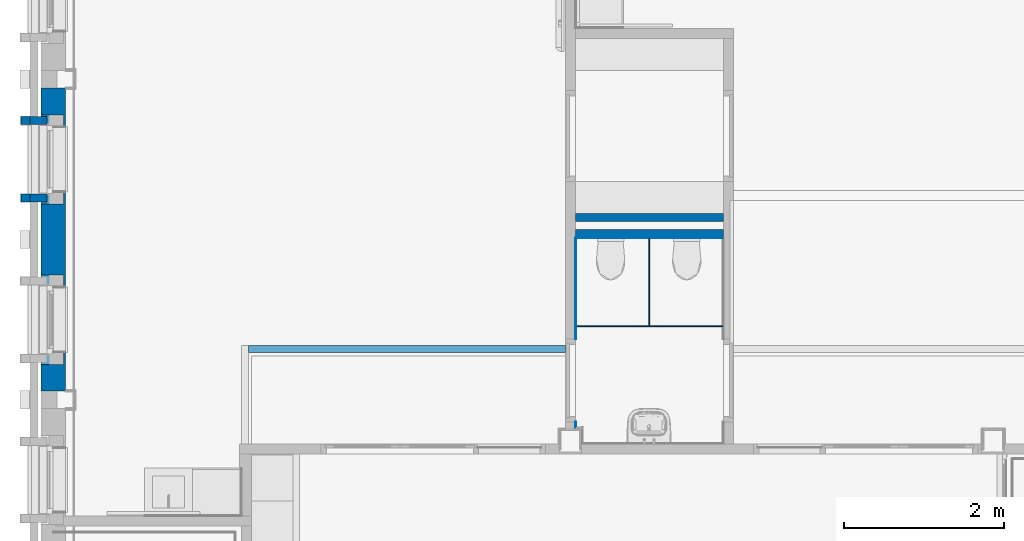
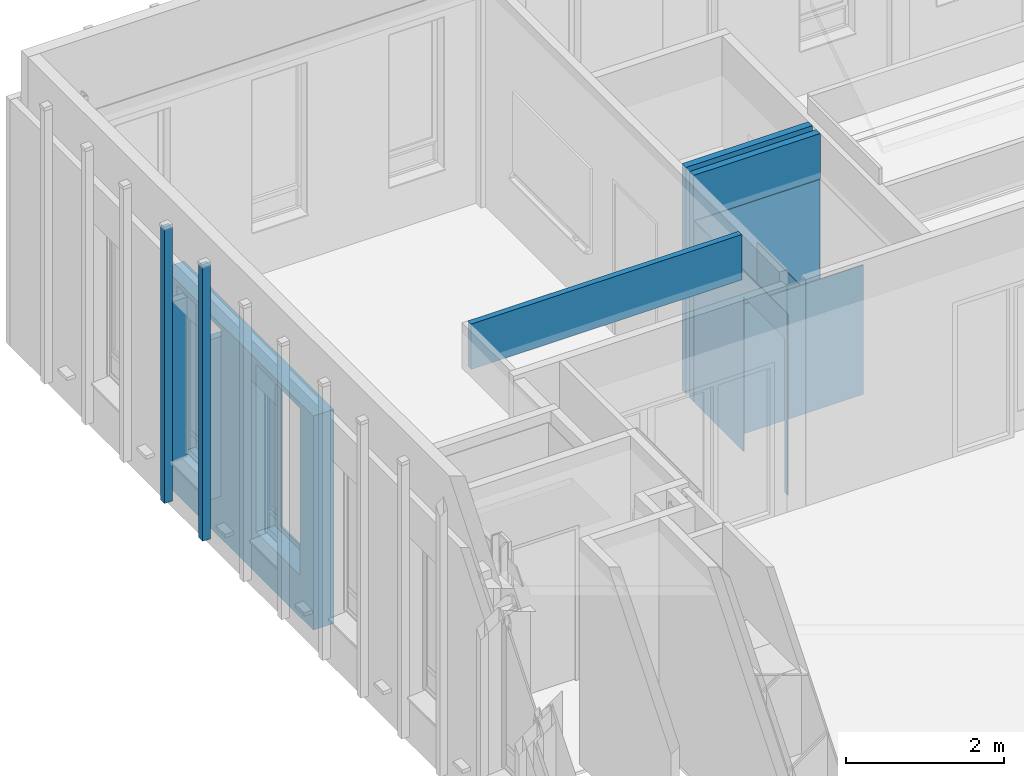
# One storey, part 52 of 118: 12 walls, 12 openings.
"""IFC2X3 building model written with IfcOpenShell, lengths in millimetres."""

from ifc_helpers import new_model, entity, si_unit, converted_unit, derived_unit, direction, frame, frame_2d, origin, place, context, subcontext, project, spatial, rectangle, extrude, faceted_brep, material, layer, layer_set, layer_usage, type_object, element, save


model = new_model("IFC2X3")

# Units and contexts
model_context = context("Model", 3, precision=0.01, world=origin(), true_north=direction((6.123031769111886e-17, 1.0)))
plan_context = context("Plan", 3, precision=0.01, world=origin(), true_north=direction((6.123031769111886e-17, 1.0)))
body_context = subcontext(model_context, "Body", "Model", "MODEL_VIEW")
ifc_project = project(units=[si_unit("LENGTHUNIT", "METRE", prefix="MILLI"), si_unit("AREAUNIT", "SQUARE_METRE"), si_unit("VOLUMEUNIT", "CUBIC_METRE"), converted_unit("PLANEANGLEUNIT", "DEGREE", entity("IfcRatioMeasure", 0.017453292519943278), si_unit("PLANEANGLEUNIT", "RADIAN"), dimensions=[0, 0, 0, 0, 0, 0, 0]), si_unit("MASSUNIT", "GRAM", prefix="KILO"), derived_unit("MASSDENSITYUNIT", [(si_unit("MASSUNIT", "GRAM", prefix="KILO"), 1), (si_unit("LENGTHUNIT", "METRE"), -3)]), derived_unit("IONCONCENTRATIONUNIT", [(si_unit("MASSUNIT", "GRAM", prefix="KILO"), 1), (si_unit("LENGTHUNIT", "METRE"), -3)]), derived_unit("MOMENTOFINERTIAUNIT", [(si_unit("LENGTHUNIT", "METRE"), 4)]), si_unit("TIMEUNIT", "SECOND"), si_unit("FREQUENCYUNIT", "HERTZ"), si_unit("THERMODYNAMICTEMPERATUREUNIT", "DEGREE_CELSIUS"), derived_unit("THERMALTRANSMITTANCEUNIT", [(si_unit("MASSUNIT", "GRAM", prefix="KILO"), 1), (si_unit("THERMODYNAMICTEMPERATUREUNIT", "KELVIN"), -1), (si_unit("TIMEUNIT", "SECOND"), -3)]), derived_unit("THERMALCONDUCTANCEUNIT", [(si_unit("MASSUNIT", "GRAM", prefix="KILO"), 1), (si_unit("THERMODYNAMICTEMPERATUREUNIT", "KELVIN"), -1), (si_unit("TIMEUNIT", "SECOND"), -3), (si_unit("LENGTHUNIT", "METRE"), 1)]), derived_unit("VOLUMETRICFLOWRATEUNIT", [(si_unit("LENGTHUNIT", "METRE"), 3), (si_unit("TIMEUNIT", "SECOND"), -1)]), derived_unit("MASSFLOWRATEUNIT", [(si_unit("MASSUNIT", "GRAM", prefix="KILO"), 1), (si_unit("TIMEUNIT", "SECOND"), -1)]), derived_unit("ROTATIONALFREQUENCYUNIT", [(si_unit("TIMEUNIT", "SECOND"), -1)]), si_unit("ELECTRICCURRENTUNIT", "AMPERE"), si_unit("ELECTRICVOLTAGEUNIT", "VOLT"), si_unit("POWERUNIT", "WATT"), si_unit("FORCEUNIT", "NEWTON", prefix="KILO"), si_unit("ILLUMINANCEUNIT", "LUX"), si_unit("LUMINOUSFLUXUNIT", "LUMEN"), si_unit("LUMINOUSINTENSITYUNIT", "CANDELA"), derived_unit("USERDEFINED", [(si_unit("MASSUNIT", "GRAM", prefix="KILO"), -1), (si_unit("LENGTHUNIT", "METRE"), -2), (si_unit("TIMEUNIT", "SECOND"), 3), (si_unit("LUMINOUSFLUXUNIT", "LUMEN"), 1)]), derived_unit("USERDEFINED", [(si_unit("MASSUNIT", "GRAM", prefix="KILO"), 1), (si_unit("TIMEUNIT", "SECOND"), -3), (si_unit("LENGTHUNIT", "METRE"), 3), (si_unit("ELECTRICCURRENTUNIT", "AMPERE"), -2)]), derived_unit("SOUNDPOWERUNIT", [(si_unit("MASSUNIT", "GRAM", prefix="KILO"), 1), (si_unit("TIMEUNIT", "SECOND"), -3), (si_unit("LENGTHUNIT", "METRE"), 2)]), derived_unit("SOUNDPRESSUREUNIT", [(si_unit("MASSUNIT", "GRAM", prefix="KILO"), 1), (si_unit("LENGTHUNIT", "METRE"), -1), (si_unit("TIMEUNIT", "SECOND"), -2)]), derived_unit("LINEARVELOCITYUNIT", [(si_unit("LENGTHUNIT", "METRE"), 1), (si_unit("TIMEUNIT", "SECOND"), -1)]), si_unit("PRESSUREUNIT", "PASCAL"), derived_unit("USERDEFINED", [(si_unit("MASSUNIT", "GRAM", prefix="KILO"), 1), (si_unit("LENGTHUNIT", "METRE"), -2), (si_unit("TIMEUNIT", "SECOND"), -2)]), derived_unit("LINEARFORCEUNIT", [(si_unit("MASSUNIT", "GRAM", prefix="KILO"), 1), (si_unit("TIMEUNIT", "SECOND"), -2)]), derived_unit("PLANARFORCEUNIT", [(si_unit("MASSUNIT", "GRAM", prefix="KILO"), 1), (si_unit("LENGTHUNIT", "METRE"), -1), (si_unit("TIMEUNIT", "SECOND"), -2)]), derived_unit("SPECIFICHEATCAPACITYUNIT", [(si_unit("THERMODYNAMICTEMPERATUREUNIT", "KELVIN"), -1), (si_unit("LENGTHUNIT", "METRE"), 2), (si_unit("TIMEUNIT", "SECOND"), -2)]), derived_unit("HEATINGVALUEUNIT", [(si_unit("LENGTHUNIT", "METRE"), 2), (si_unit("TIMEUNIT", "SECOND"), -2)]), derived_unit("VAPORPERMEABILITYUNIT", [(si_unit("LENGTHUNIT", "METRE"), -1), (si_unit("TIMEUNIT", "SECOND"), 1)]), derived_unit("DYNAMICVISCOSITYUNIT", [(si_unit("MASSUNIT", "GRAM", prefix="KILO"), 1), (si_unit("TIMEUNIT", "SECOND"), -1), (si_unit("LENGTHUNIT", "METRE"), -1)]), derived_unit("THERMALEXPANSIONCOEFFICIENTUNIT", [(si_unit("THERMODYNAMICTEMPERATUREUNIT", "KELVIN"), -1)]), derived_unit("MODULUSOFELASTICITYUNIT", [(si_unit("MASSUNIT", "GRAM", prefix="KILO"), 1), (si_unit("LENGTHUNIT", "METRE"), -1), (si_unit("TIMEUNIT", "SECOND"), -2)]), derived_unit("ISOTHERMALMOISTURECAPACITYUNIT", [(si_unit("LENGTHUNIT", "METRE"), 3), (si_unit("MASSUNIT", "GRAM", prefix="KILO"), -1)]), derived_unit("MOISTUREDIFFUSIVITYUNIT", [(si_unit("TIMEUNIT", "SECOND"), -1), (si_unit("LENGTHUNIT", "METRE"), 2)])], contexts=[model_context, plan_context])

# Site, building, storey
site_placement = place(None, origin())
site = spatial("IfcSite", under=ifc_project, at=site_placement, Name="Locatie", CompositionType="ELEMENT")
building_placement = place(site_placement, origin())
building = spatial("IfcBuilding", under=site, at=building_placement, Name="Bouwwerk", CompositionType="ELEMENT")
storey_placement = place(building_placement, frame((0.0, 0.0, 7800.0)))
storey = spatial("IfcBuildingStorey", under=building, at=storey_placement, Name="02 tweede verdieping", CompositionType="ELEMENT", Elevation=7800.000000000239)

# Wall, openings
ifc_material_1 = material(Name="n7_isolatie_glaswol")
ifc_layer_1 = layer(ifc_material_1, 30.0)
ifc_layer_2 = layer(ifc_material_1, 245.0)
ifc_material_2 = material(Name="i4_multiplex")
ifc_layer_3 = layer(ifc_material_2, 12.0)
ifc_material_3 = material(Name="f7_gipsvezel")
ifc_layer_4 = layer(ifc_material_3, 13.000000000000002)
ifc_layer_set_1 = layer_set([ifc_layer_1, ifc_layer_2, ifc_layer_3, ifc_layer_4], Name="Basic Wall:NLRS_22_WA_HSB bispouw 30-245-12-13 glaswol_gen_ISR")
ifc_layer_usage_1 = layer_usage(ifc_layer_set_1, "AXIS2", "NEGATIVE", 150.0)
wall_type_1 = type_object("IfcWallType", Name="Basic Wall:NLRS_22_WA_HSB bispouw 30-245-12-13 glaswol_gen_ISR", PredefinedType="STANDARD", material=ifc_layer_set_1)
wall_1_placement = place(storey_placement, frame((9850.0, 27310.0, -30.0), z_axis=(0.0, 0.0, 1.0), x_axis=(0.0, 1.0, 0.0)))
wall_1 = element("IfcWallStandardCase", 1, at=wall_1_placement, inside=storey, type_object=wall_type_1, material=ifc_layer_usage_1, Name="Basic Wall:NLRS_22_WA_HSB bispouw 30-245-12-13 glaswol_gen_ISR", ObjectType="Basic Wall:NLRS_22_WA_HSB bispouw 30-245-12-13 glaswol_gen_ISR", context=body_context, shape_type="SweptSolid", body=[
    extrude(rectangle(XDim=3779.9999999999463, YDim=300.0000000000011, at=frame_2d((1889.9999999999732, 0.0), x_axis=(-1.0, 0.0))), origin(), (0.0, 0.0, 1.0), 3305.0000000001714),
])
opening_1_placement = place(wall_1_placement, frame((-15666.0, 290.0, 633.0)))
element("IfcOpeningElement", 2, at=opening_1_placement, cuts=wall_1, Name="Basic Wall:NLRS_22_WA_HSB bispouw 30-245-12-13 glaswol_gen_ISR", ObjectType="Opening", context=body_context, shape_type="Brep", body=[
    faceted_brep([(1088.0, -100.0, 2472.0), (1009.0, -100.0, 2472.0), (1009.0, -100.0, 42.0), (103.0, -100.0, 42.0), (103.0, -100.0, 2472.0), (24.0, -100.0, 2472.0), (24.0, -100.0, 0.0), (1088.0, -100.0, 0.0), (24.0, 0.0, 2472.0), (1088.0, 0.0, 2472.0), (1088.0, 0.0, 0.0), (24.0, 0.0, 0.0), (0.0, -415.0, 2594.0), (0.0, -415.0, 11.0), (1112.0, -415.0, 11.0), (1112.0, -415.0, 2594.0), (148.0, -415.0, 2443.0), (964.0, -415.0, 2443.0), (964.0, -415.0, 87.0), (148.0, -415.0, 87.0), (0.0, -140.0, 2594.0), (1112.0, -140.0, 2594.0), (1112.0, -140.0, 11.0), (0.0, -140.0, 11.0), (103.0, -140.0, 42.0), (1009.0, -140.0, 42.0), (1009.0, -140.0, 2508.0), (103.0, -140.0, 2508.0), (1009.0, -100.0, 2508.0), (103.0, -100.0, 2508.0), (148.0, -615.0, 2443.0), (148.0, -615.0, 87.0), (964.0, -615.0, 87.0), (964.0, -615.0, 2443.0)], [[[0, 1, 2, 3, 4, 5, 6, 7]], [[8, 9, 10, 11]], [[5, 8, 11, 6]], [[6, 11, 10, 7]], [[7, 10, 9, 0]], [[8, 5, 4, 1, 0, 9]], [[12, 13, 14, 15], [16, 17, 18, 19]], [[20, 21, 22, 23], [24, 25, 26, 27]], [[12, 20, 23, 13]], [[13, 23, 22, 14]], [[14, 22, 21, 15]], [[15, 21, 20, 12]], [[28, 1, 4, 29]], [[24, 27, 29, 4, 3]], [[3, 2, 25, 24]], [[2, 1, 28, 26, 25]], [[29, 27, 26, 28]], [[30, 31, 32, 33]], [[30, 16, 19, 31]], [[31, 19, 18, 32]], [[32, 18, 17, 33]], [[33, 17, 16, 30]]]),
])
opening_2_placement = place(wall_1_placement, frame((-13666.0, 290.0, 633.0)))
element("IfcOpeningElement", 3, at=opening_2_placement, cuts=wall_1, Name="Basic Wall:NLRS_22_WA_HSB bispouw 30-245-12-13 glaswol_gen_ISR", ObjectType="Opening", context=body_context, shape_type="Brep", body=[
    faceted_brep([(1088.0, -100.0, 2472.0), (1009.0, -100.0, 2472.0), (1009.0, -100.0, 42.0), (103.0, -100.0, 42.0), (103.0, -100.0, 2472.0), (24.0, -100.0, 2472.0), (24.0, -100.0, 0.0), (1088.0, -100.0, 0.0), (24.0, 0.0, 2472.0), (1088.0, 0.0, 2472.0), (1088.0, 0.0, 0.0), (24.0, 0.0, 0.0), (0.0, -415.0, 2594.0), (0.0, -415.0, 11.0), (1112.0, -415.0, 11.0), (1112.0, -415.0, 2594.0), (148.0, -415.0, 2443.0), (964.0, -415.0, 2443.0), (964.0, -415.0, 87.0), (148.0, -415.0, 87.0), (0.0, -140.0, 2594.0), (1112.0, -140.0, 2594.0), (1112.0, -140.0, 11.0), (0.0, -140.0, 11.0), (103.0, -140.0, 42.0), (1009.0, -140.0, 42.0), (1009.0, -140.0, 2508.0), (103.0, -140.0, 2508.0), (1009.0, -100.0, 2508.0), (103.0, -100.0, 2508.0), (148.0, -615.0, 2443.0), (148.0, -615.0, 87.0), (964.0, -615.0, 87.0), (964.0, -615.0, 2443.0)], [[[0, 1, 2, 3, 4, 5, 6, 7]], [[8, 9, 10, 11]], [[5, 8, 11, 6]], [[6, 11, 10, 7]], [[7, 10, 9, 0]], [[8, 5, 4, 1, 0, 9]], [[12, 13, 14, 15], [16, 17, 18, 19]], [[20, 21, 22, 23], [24, 25, 26, 27]], [[12, 20, 23, 13]], [[13, 23, 22, 14]], [[14, 22, 21, 15]], [[15, 21, 20, 12]], [[28, 1, 4, 29]], [[24, 27, 29, 4, 3]], [[3, 2, 25, 24]], [[2, 1, 28, 26, 25]], [[29, 27, 26, 28]], [[30, 31, 32, 33]], [[30, 16, 19, 31]], [[31, 19, 18, 32]], [[32, 18, 17, 33]], [[33, 17, 16, 30]]]),
])
opening_3_placement = place(wall_1_placement, frame((-11666.0, 290.0, 633.0)))
element("IfcOpeningElement", 4, at=opening_3_placement, cuts=wall_1, Name="Basic Wall:NLRS_22_WA_HSB bispouw 30-245-12-13 glaswol_gen_ISR", ObjectType="Opening", context=body_context, shape_type="Brep", body=[
    faceted_brep([(1088.0, -100.0, 2472.0), (1009.0, -100.0, 2472.0), (1009.0, -100.0, 42.0), (103.0, -100.0, 42.0), (103.0, -100.0, 2472.0), (24.0, -100.0, 2472.0), (24.0, -100.0, 0.0), (1088.0, -100.0, 0.0), (24.0, 0.0, 2472.0), (1088.0, 0.0, 2472.0), (1088.0, 0.0, 0.0), (24.0, 0.0, 0.0), (0.0, -415.0, 2594.0), (0.0, -415.0, 11.0), (1112.0, -415.0, 11.0), (1112.0, -415.0, 2594.0), (148.0, -415.0, 2443.0), (964.0, -415.0, 2443.0), (964.0, -415.0, 87.0), (148.0, -415.0, 87.0), (0.0, -140.0, 2594.0), (1112.0, -140.0, 2594.0), (1112.0, -140.0, 11.0), (0.0, -140.0, 11.0), (103.0, -140.0, 42.0), (1009.0, -140.0, 42.0), (1009.0, -140.0, 2508.0), (103.0, -140.0, 2508.0), (1009.0, -100.0, 2508.0), (103.0, -100.0, 2508.0), (148.0, -615.0, 2443.0), (148.0, -615.0, 87.0), (964.0, -615.0, 87.0), (964.0, -615.0, 2443.0)], [[[0, 1, 2, 3, 4, 5, 6, 7]], [[8, 9, 10, 11]], [[5, 8, 11, 6]], [[6, 11, 10, 7]], [[7, 10, 9, 0]], [[8, 5, 4, 1, 0, 9]], [[12, 13, 14, 15], [16, 17, 18, 19]], [[20, 21, 22, 23], [24, 25, 26, 27]], [[12, 20, 23, 13]], [[13, 23, 22, 14]], [[14, 22, 21, 15]], [[15, 21, 20, 12]], [[28, 1, 4, 29]], [[24, 27, 29, 4, 3]], [[3, 2, 25, 24]], [[2, 1, 28, 26, 25]], [[29, 27, 26, 28]], [[30, 31, 32, 33]], [[30, 16, 19, 31]], [[31, 19, 18, 32]], [[32, 18, 17, 33]], [[33, 17, 16, 30]]]),
])
opening_4_placement = place(wall_1_placement, frame((-9666.0, 290.0, 633.0)))
element("IfcOpeningElement", 5, at=opening_4_placement, cuts=wall_1, Name="Basic Wall:NLRS_22_WA_HSB bispouw 30-245-12-13 glaswol_gen_ISR", ObjectType="Opening", context=body_context, shape_type="Brep", body=[
    faceted_brep([(1088.0, -100.0, 2472.0), (1009.0, -100.0, 2472.0), (1009.0, -100.0, 42.0), (103.0, -100.0, 42.0), (103.0, -100.0, 2472.0), (24.0, -100.0, 2472.0), (24.0, -100.0, 0.0), (1088.0, -100.0, 0.0), (24.0, 0.0, 2472.0), (1088.0, 0.0, 2472.0), (1088.0, 0.0, 0.0), (24.0, 0.0, 0.0), (0.0, -415.0, 2594.0), (0.0, -415.0, 11.0), (1112.0, -415.0, 11.0), (1112.0, -415.0, 2594.0), (148.0, -415.0, 2443.0), (964.0, -415.0, 2443.0), (964.0, -415.0, 87.0), (148.0, -415.0, 87.0), (0.0, -140.0, 2594.0), (1112.0, -140.0, 2594.0), (1112.0, -140.0, 11.0), (0.0, -140.0, 11.0), (103.0, -140.0, 42.0), (1009.0, -140.0, 42.0), (1009.0, -140.0, 2508.0), (103.0, -140.0, 2508.0), (1009.0, -100.0, 2508.0), (103.0, -100.0, 2508.0), (148.0, -615.0, 2443.0), (148.0, -615.0, 87.0), (964.0, -615.0, 87.0), (964.0, -615.0, 2443.0)], [[[0, 1, 2, 3, 4, 5, 6, 7]], [[8, 9, 10, 11]], [[5, 8, 11, 6]], [[6, 11, 10, 7]], [[7, 10, 9, 0]], [[8, 5, 4, 1, 0, 9]], [[12, 13, 14, 15], [16, 17, 18, 19]], [[20, 21, 22, 23], [24, 25, 26, 27]], [[12, 20, 23, 13]], [[13, 23, 22, 14]], [[14, 22, 21, 15]], [[15, 21, 20, 12]], [[28, 1, 4, 29]], [[24, 27, 29, 4, 3]], [[3, 2, 25, 24]], [[2, 1, 28, 26, 25]], [[29, 27, 26, 28]], [[30, 31, 32, 33]], [[30, 16, 19, 31]], [[31, 19, 18, 32]], [[32, 18, 17, 33]], [[33, 17, 16, 30]]]),
])
opening_5_placement = place(wall_1_placement, frame((-7666.0, 290.0, 633.0)))
element("IfcOpeningElement", 6, at=opening_5_placement, cuts=wall_1, Name="Basic Wall:NLRS_22_WA_HSB bispouw 30-245-12-13 glaswol_gen_ISR", ObjectType="Opening", context=body_context, shape_type="Brep", body=[
    faceted_brep([(24.0, -100.0, 0.0), (24.0, 0.0, 0.0), (1088.0, 0.0, 0.0), (1088.0, -100.0, 0.0), (0.0, -415.0, 11.0), (0.0, -140.0, 11.0), (1112.0, -140.0, 11.0), (1112.0, -415.0, 11.0), (103.0, -100.0, 42.0), (1009.0, -100.0, 42.0), (1009.0, -140.0, 42.0), (103.0, -140.0, 42.0), (1088.0, -100.0, 2472.0), (1009.0, -100.0, 2472.0), (103.0, -100.0, 2472.0), (24.0, -100.0, 2472.0), (24.0, 0.0, 2472.0), (1088.0, 0.0, 2472.0), (0.0, -415.0, 2594.0), (1112.0, -415.0, 2594.0), (148.0, -415.0, 2443.0), (964.0, -415.0, 2443.0), (964.0, -415.0, 87.0), (148.0, -415.0, 87.0), (0.0, -140.0, 2594.0), (1112.0, -140.0, 2594.0), (1009.0, -140.0, 2508.0), (103.0, -140.0, 2508.0), (1009.0, -100.0, 2508.0), (103.0, -100.0, 2508.0), (148.0, -615.0, 2443.0), (148.0, -615.0, 87.0), (964.0, -615.0, 87.0), (964.0, -615.0, 2443.0)], [[[0, 1, 2, 3]], [[4, 5, 6, 7]], [[8, 9, 10, 11]], [[12, 13, 9, 8, 14, 15, 0, 3]], [[16, 17, 2, 1]], [[15, 16, 1, 0]], [[3, 2, 17, 12]], [[16, 15, 14, 13, 12, 17]], [[18, 4, 7, 19], [20, 21, 22, 23]], [[24, 25, 6, 5], [11, 10, 26, 27]], [[18, 24, 5, 4]], [[7, 6, 25, 19]], [[19, 25, 24, 18]], [[28, 13, 14, 29]], [[11, 27, 29, 14, 8]], [[9, 13, 28, 26, 10]], [[29, 27, 26, 28]], [[30, 31, 32, 33]], [[30, 20, 23, 31]], [[31, 23, 22, 32]], [[32, 22, 21, 33]], [[33, 21, 20, 30]]]),
])
opening_6_placement = place(wall_1_placement, frame((-5666.0, 290.0, 633.0)))
element("IfcOpeningElement", 7, at=opening_6_placement, cuts=wall_1, Name="Basic Wall:NLRS_22_WA_HSB bispouw 30-245-12-13 glaswol_gen_ISR", ObjectType="Opening", context=body_context, shape_type="Brep", body=[
    faceted_brep([(24.0, -100.0, 0.0), (24.0, 0.0, 0.0), (1088.0, 0.0, 0.0), (1088.0, -100.0, 0.0), (0.0, -415.0, 11.0), (0.0, -140.0, 11.0), (1112.0, -140.0, 11.0), (1112.0, -415.0, 11.0), (103.0, -100.0, 42.0), (1009.0, -100.0, 42.0), (1009.0, -140.0, 42.0), (103.0, -140.0, 42.0), (1088.0, -100.0, 2472.0), (1009.0, -100.0, 2472.0), (103.0, -100.0, 2472.0), (24.0, -100.0, 2472.0), (24.0, 0.0, 2472.0), (1088.0, 0.0, 2472.0), (0.0, -415.0, 2594.0), (1112.0, -415.0, 2594.0), (148.0, -415.0, 2443.0), (964.0, -415.0, 2443.0), (964.0, -415.0, 87.0), (148.0, -415.0, 87.0), (0.0, -140.0, 2594.0), (1112.0, -140.0, 2594.0), (1009.0, -140.0, 2508.0), (103.0, -140.0, 2508.0), (1009.0, -100.0, 2508.0), (103.0, -100.0, 2508.0), (148.0, -615.0, 2443.0), (148.0, -615.0, 87.0), (964.0, -615.0, 87.0), (964.0, -615.0, 2443.0)], [[[0, 1, 2, 3]], [[4, 5, 6, 7]], [[8, 9, 10, 11]], [[12, 13, 9, 8, 14, 15, 0, 3]], [[16, 17, 2, 1]], [[15, 16, 1, 0]], [[3, 2, 17, 12]], [[16, 15, 14, 13, 12, 17]], [[18, 4, 7, 19], [20, 21, 22, 23]], [[24, 25, 6, 5], [11, 10, 26, 27]], [[18, 24, 5, 4]], [[7, 6, 25, 19]], [[19, 25, 24, 18]], [[28, 13, 14, 29]], [[11, 27, 29, 14, 8]], [[9, 13, 28, 26, 10]], [[29, 27, 26, 28]], [[30, 31, 32, 33]], [[30, 20, 23, 31]], [[31, 23, 22, 32]], [[32, 22, 21, 33]], [[33, 21, 20, 30]]]),
])
opening_7_placement = place(wall_1_placement, frame((-3666.0, 290.0, 633.0)))
element("IfcOpeningElement", 8, at=opening_7_placement, cuts=wall_1, Name="Basic Wall:NLRS_22_WA_HSB bispouw 30-245-12-13 glaswol_gen_ISR", ObjectType="Opening", context=body_context, shape_type="Brep", body=[
    faceted_brep([(1088.0, -100.0, 2472.0), (1009.0, -100.0, 2472.0), (1009.0, -100.0, 42.0), (103.0, -100.0, 42.0), (103.0, -100.0, 2472.0), (24.0, -100.0, 2472.0), (24.0, -100.0, 0.0), (1088.0, -100.0, 0.0), (24.0, 0.0, 2472.0), (1088.0, 0.0, 2472.0), (1088.0, 0.0, 0.0), (24.0, 0.0, 0.0), (0.0, -415.0, 2594.0), (0.0, -415.0, 11.0), (1112.0, -415.0, 11.0), (1112.0, -415.0, 2594.0), (148.0, -415.0, 2443.0), (964.0, -415.0, 2443.0), (964.0, -415.0, 87.0), (148.0, -415.0, 87.0), (0.0, -140.0, 2594.0), (1112.0, -140.0, 2594.0), (1112.0, -140.0, 11.0), (0.0, -140.0, 11.0), (103.0, -140.0, 42.0), (1009.0, -140.0, 42.0), (1009.0, -140.0, 2508.0), (103.0, -140.0, 2508.0), (1009.0, -100.0, 2508.0), (103.0, -100.0, 2508.0), (148.0, -615.0, 2443.0), (148.0, -615.0, 87.0), (964.0, -615.0, 87.0), (964.0, -615.0, 2443.0)], [[[0, 1, 2, 3, 4, 5, 6, 7]], [[8, 9, 10, 11]], [[5, 8, 11, 6]], [[6, 11, 10, 7]], [[7, 10, 9, 0]], [[8, 5, 4, 1, 0, 9]], [[12, 13, 14, 15], [16, 17, 18, 19]], [[20, 21, 22, 23], [24, 25, 26, 27]], [[12, 20, 23, 13]], [[13, 23, 22, 14]], [[14, 22, 21, 15]], [[15, 21, 20, 12]], [[28, 1, 4, 29]], [[24, 27, 29, 4, 3]], [[3, 2, 25, 24]], [[2, 1, 28, 26, 25]], [[29, 27, 26, 28]], [[30, 31, 32, 33]], [[30, 16, 19, 31]], [[31, 19, 18, 32]], [[32, 18, 17, 33]], [[33, 17, 16, 30]]]),
])
opening_8_placement = place(wall_1_placement, frame((-1666.0, 290.0, 633.0)))
element("IfcOpeningElement", 9, at=opening_8_placement, cuts=wall_1, Name="Basic Wall:NLRS_22_WA_HSB bispouw 30-245-12-13 glaswol_gen_ISR", ObjectType="Opening", context=body_context, shape_type="Brep", body=[
    faceted_brep([(1088.0, -100.0, 2472.0), (1009.0, -100.0, 2472.0), (1009.0, -100.0, 42.0), (103.0, -100.0, 42.0), (103.0, -100.0, 2472.0), (24.0, -100.0, 2472.0), (24.0, -100.0, 0.0), (1088.0, -100.0, 0.0), (24.0, 0.0, 2472.0), (1088.0, 0.0, 2472.0), (1088.0, 0.0, 0.0), (24.0, 0.0, 0.0), (0.0, -415.0, 2594.0), (0.0, -415.0, 11.0), (1112.0, -415.0, 11.0), (1112.0, -415.0, 2594.0), (148.0, -415.0, 2443.0), (964.0, -415.0, 2443.0), (964.0, -415.0, 87.0), (148.0, -415.0, 87.0), (0.0, -140.0, 2594.0), (1112.0, -140.0, 2594.0), (1112.0, -140.0, 11.0), (0.0, -140.0, 11.0), (103.0, -140.0, 42.0), (1009.0, -140.0, 42.0), (1009.0, -140.0, 2508.0), (103.0, -140.0, 2508.0), (1009.0, -100.0, 2508.0), (103.0, -100.0, 2508.0), (148.0, -615.0, 2443.0), (148.0, -615.0, 87.0), (964.0, -615.0, 87.0), (964.0, -615.0, 2443.0)], [[[0, 1, 2, 3, 4, 5, 6, 7]], [[8, 9, 10, 11]], [[5, 8, 11, 6]], [[6, 11, 10, 7]], [[7, 10, 9, 0]], [[8, 5, 4, 1, 0, 9]], [[12, 13, 14, 15], [16, 17, 18, 19]], [[20, 21, 22, 23], [24, 25, 26, 27]], [[12, 20, 23, 13]], [[13, 23, 22, 14]], [[14, 22, 21, 15]], [[15, 21, 20, 12]], [[28, 1, 4, 29]], [[24, 27, 29, 4, 3]], [[3, 2, 25, 24]], [[2, 1, 28, 26, 25]], [[29, 27, 26, 28]], [[30, 31, 32, 33]], [[30, 16, 19, 31]], [[31, 19, 18, 32]], [[32, 18, 17, 33]], [[33, 17, 16, 30]]]),
])
opening_9_placement = place(wall_1_placement, frame((4334.0, 290.0, 633.0)))
element("IfcOpeningElement", 10, at=opening_9_placement, cuts=wall_1, Name="Basic Wall:NLRS_22_WA_HSB bispouw 30-245-12-13 glaswol_gen_ISR", ObjectType="Opening", context=body_context, shape_type="Brep", body=[
    faceted_brep([(1088.0, -100.0, 2472.0), (1009.0, -100.0, 2472.0), (1009.0, -100.0, 42.0), (103.0, -100.0, 42.0), (103.0, -100.0, 2472.0), (24.0, -100.0, 2472.0), (24.0, -100.0, 0.0), (1088.0, -100.0, 0.0), (24.0, 0.0, 2472.0), (1088.0, 0.0, 2472.0), (1088.0, 0.0, 0.0), (24.0, 0.0, 0.0), (0.0, -415.0, 2594.0), (0.0, -415.0, 11.0), (1112.0, -415.0, 11.0), (1112.0, -415.0, 2594.0), (148.0, -415.0, 2443.0), (964.0, -415.0, 2443.0), (964.0, -415.0, 87.0), (148.0, -415.0, 87.0), (0.0, -140.0, 2594.0), (1112.0, -140.0, 2594.0), (1112.0, -140.0, 11.0), (0.0, -140.0, 11.0), (103.0, -140.0, 42.0), (1009.0, -140.0, 42.0), (1009.0, -140.0, 2508.0), (103.0, -140.0, 2508.0), (1009.0, -100.0, 2508.0), (103.0, -100.0, 2508.0), (148.0, -615.0, 2443.0), (148.0, -615.0, 87.0), (964.0, -615.0, 87.0), (964.0, -615.0, 2443.0)], [[[0, 1, 2, 3, 4, 5, 6, 7]], [[8, 9, 10, 11]], [[5, 8, 11, 6]], [[6, 11, 10, 7]], [[7, 10, 9, 0]], [[8, 5, 4, 1, 0, 9]], [[12, 13, 14, 15], [16, 17, 18, 19]], [[20, 21, 22, 23], [24, 25, 26, 27]], [[12, 20, 23, 13]], [[13, 23, 22, 14]], [[14, 22, 21, 15]], [[15, 21, 20, 12]], [[28, 1, 4, 29]], [[24, 27, 29, 4, 3]], [[3, 2, 25, 24]], [[2, 1, 28, 26, 25]], [[29, 27, 26, 28]], [[30, 31, 32, 33]], [[30, 16, 19, 31]], [[31, 19, 18, 32]], [[32, 18, 17, 33]], [[33, 17, 16, 30]]]),
])
opening_10_placement = place(wall_1_placement, frame((2334.0, 290.0, 633.0), z_axis=(0.0, 0.0, 1.0), x_axis=(0.0, -1.0, 0.0)))
element("IfcOpeningElement", 11, at=opening_10_placement, cuts=wall_1, Name="Basic Wall:NLRS_22_WA_HSB bispouw 30-245-12-13 glaswol_gen_ISR", ObjectType="Opening", context=body_context, shape_type="Brep", body=[
    faceted_brep([(100.0, 1088.0, 2472.0), (100.0, 1009.0, 2472.0), (100.0, 1009.0, 42.0), (100.0, 103.0, 42.0), (100.0, 103.0, 2472.0), (100.0, 24.0, 2472.0), (100.0, 24.0, 0.0), (100.0, 1088.0, 0.0), (0.0, 24.0, 2472.0), (0.0, 1088.0, 2472.0), (0.0, 1088.0, 0.0), (0.0, 24.0, 0.0), (415.0, 0.0, 2594.0), (415.0, 0.0, 11.0), (415.0, 1112.0, 11.0), (415.0, 1112.0, 2594.0), (415.0, 148.0, 2443.0), (415.0, 964.0, 2443.0), (415.0, 964.0, 87.0), (415.0, 148.0, 87.0), (140.0, 0.0, 2594.0), (140.0, 1112.0, 2594.0), (140.0, 1112.0, 11.0), (140.0, 0.0, 11.0), (140.0, 103.0, 42.0), (140.0, 1009.0, 42.0), (140.0, 1009.0, 2508.0), (140.0, 103.0, 2508.0), (100.0, 1009.0, 2508.0), (100.0, 103.0, 2508.0), (615.0, 148.0, 2443.0), (615.0, 148.0, 87.0), (615.0, 964.0, 87.0), (615.0, 964.0, 2443.0)], [[[0, 1, 2, 3, 4, 5, 6, 7]], [[8, 9, 10, 11]], [[5, 8, 11, 6]], [[6, 11, 10, 7]], [[7, 10, 9, 0]], [[8, 5, 4, 1, 0, 9]], [[12, 13, 14, 15], [16, 17, 18, 19]], [[20, 21, 22, 23], [24, 25, 26, 27]], [[12, 20, 23, 13]], [[13, 23, 22, 14]], [[14, 22, 21, 15]], [[15, 21, 20, 12]], [[28, 1, 4, 29]], [[24, 27, 29, 4, 3]], [[3, 2, 25, 24]], [[2, 1, 28, 26, 25]], [[29, 27, 26, 28]], [[30, 31, 32, 33]], [[30, 16, 19, 31]], [[31, 19, 18, 32]], [[32, 18, 17, 33]], [[33, 17, 16, 30]]]),
])
opening_11_placement = place(wall_1_placement, frame((334.0, 290.0, 633.0), z_axis=(0.0, 0.0, 1.0), x_axis=(0.0, -1.0, 0.0)))
element("IfcOpeningElement", 12, at=opening_11_placement, cuts=wall_1, Name="Basic Wall:NLRS_22_WA_HSB bispouw 30-245-12-13 glaswol_gen_ISR", ObjectType="Opening", context=body_context, shape_type="Brep", body=[
    faceted_brep([(100.0, 1088.0, 2472.0), (100.0, 1009.0, 2472.0), (100.0, 1009.0, 42.0), (100.0, 103.0, 42.0), (100.0, 103.0, 2472.0), (100.0, 24.0, 2472.0), (100.0, 24.0, 0.0), (100.0, 1088.0, 0.0), (0.0, 24.0, 2472.0), (0.0, 1088.0, 2472.0), (0.0, 1088.0, 0.0), (0.0, 24.0, 0.0), (415.0, 0.0, 2594.0), (415.0, 0.0, 11.0), (415.0, 1112.0, 11.0), (415.0, 1112.0, 2594.0), (415.0, 148.0, 2443.0), (415.0, 964.0, 2443.0), (415.0, 964.0, 87.0), (415.0, 148.0, 87.0), (140.0, 0.0, 2594.0), (140.0, 1112.0, 2594.0), (140.0, 1112.0, 11.0), (140.0, 0.0, 11.0), (140.0, 103.0, 42.0), (140.0, 1009.0, 42.0), (140.0, 1009.0, 2508.0), (140.0, 103.0, 2508.0), (100.0, 1009.0, 2508.0), (100.0, 103.0, 2508.0), (615.0, 148.0, 2443.0), (615.0, 148.0, 87.0), (615.0, 964.0, 87.0), (615.0, 964.0, 2443.0)], [[[0, 1, 2, 3, 4, 5, 6, 7]], [[8, 9, 10, 11]], [[5, 8, 11, 6]], [[6, 11, 10, 7]], [[7, 10, 9, 0]], [[8, 5, 4, 1, 0, 9]], [[12, 13, 14, 15], [16, 17, 18, 19]], [[20, 21, 22, 23], [24, 25, 26, 27]], [[12, 20, 23, 13]], [[13, 23, 22, 14]], [[14, 22, 21, 15]], [[15, 21, 20, 12]], [[28, 1, 4, 29]], [[24, 27, 29, 4, 3]], [[3, 2, 25, 24]], [[2, 1, 28, 26, 25]], [[29, 27, 26, 28]], [[30, 31, 32, 33]], [[30, 16, 19, 31]], [[31, 19, 18, 32]], [[32, 18, 17, 33]], [[33, 17, 16, 30]]]),
])

# Walls
ifc_material_4 = material(Name="g2_metselwerk_geel licht")
ifc_layer_5 = layer(ifc_material_4, 100.0)
ifc_layer_set_2 = layer_set([ifc_layer_5], Name="Basic Wall:21_WA_metselwerk_licht_100_gen_bdg")
ifc_layer_usage_2 = layer_usage(ifc_layer_set_2, "AXIS2", "NEGATIVE", 50.0)
wall_type_2 = type_object("IfcWallType", Name="Basic Wall:21_WA_metselwerk_licht_100_gen_bdg", PredefinedType="STANDARD", material=ifc_layer_set_2)
wall_2_placement = place(storey_placement, frame((9770.0, 30682.0, 603.0), z_axis=(0.0, 0.0, 1.0), x_axis=(-1.0, 0.0, 0.0)))
element("IfcWallStandardCase", 13, at=wall_2_placement, inside=storey, type_object=wall_type_2, material=ifc_layer_usage_2, Name="Basic Wall:21_WA_metselwerk_licht_100_gen_bdg", ObjectType="Basic Wall:21_WA_metselwerk_licht_100_gen_bdg", context=body_context, shape_type="SweptSolid", body=[
    extrude(rectangle(XDim=210.00000000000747, YDim=100.00000000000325, at=frame_2d((105.00000000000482, -4.654054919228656e-13), x_axis=(-1.0, 0.0))), origin(), (0.0, 0.0, 1.0), 2471.999999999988),
])
wall_3_placement = place(storey_placement, frame((9560.0, 30682.0, 0.0), z_axis=(0.0, 0.0, 1.0), x_axis=(-1.0, 0.0, 0.0)))
element("IfcWallStandardCase", 14, at=wall_3_placement, inside=storey, type_object=wall_type_2, material=ifc_layer_usage_2, Name="Basic Wall:21_WA_metselwerk_licht_100_gen_bdg", ObjectType="Basic Wall:21_WA_metselwerk_licht_100_gen_bdg", context=body_context, shape_type="SweptSolid", body=[
    extrude(rectangle(XDim=114.99999999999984, YDim=100.00000000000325, at=frame_2d((57.49999999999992, 1.2434497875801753e-12), x_axis=(-1.0, 0.0))), origin(), (0.0, 0.0, 1.0), 4232.000000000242),
])
ifc_layer_usage_3 = layer_usage(ifc_layer_set_2, "AXIS2", "POSITIVE", -50.0)
wall_4_placement = place(storey_placement, frame((9770.0, 29718.0, 603.0), z_axis=(0.0, 0.0, 1.0), x_axis=(-1.0, 0.0, 0.0)))
element("IfcWallStandardCase", 15, at=wall_4_placement, inside=storey, type_object=wall_type_2, material=ifc_layer_usage_3, Name="Basic Wall:21_WA_metselwerk_licht_100_gen_bdg", ObjectType="Basic Wall:21_WA_metselwerk_licht_100_gen_bdg", context=body_context, shape_type="SweptSolid", body=[
    extrude(rectangle(XDim=210.00000000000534, YDim=100.00000000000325, at=frame_2d((105.00000000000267, 1.0196288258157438e-12), x_axis=(-1.0, 0.0))), origin(), (0.0, 0.0, 1.0), 2471.999999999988),
])
wall_5_placement = place(storey_placement, frame((9560.0, 29718.0, 0.0), z_axis=(0.0, 0.0, 1.0), x_axis=(-1.0, 0.0, 0.0)))
element("IfcWallStandardCase", 16, at=wall_5_placement, inside=storey, type_object=wall_type_2, material=ifc_layer_usage_3, Name="Basic Wall:21_WA_metselwerk_licht_100_gen_bdg", ObjectType="Basic Wall:21_WA_metselwerk_licht_100_gen_bdg", context=body_context, shape_type="SweptSolid", body=[
    extrude(rectangle(XDim=114.99999999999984, YDim=100.00000000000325, at=frame_2d((57.49999999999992, 1.2434497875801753e-12), x_axis=(-1.0, 0.0))), origin(), (0.0, 0.0, 1.0), 4231.99999999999),
])
ifc_layer_6 = layer(ifc_material_3, 12.5)
ifc_material_5 = material(Name="f7_gips")
ifc_layer_7 = layer(ifc_material_5, 12.5)
ifc_layer_8 = layer(ifc_material_1, 75.0)
ifc_layer_set_3 = layer_set([ifc_layer_6, ifc_layer_7, ifc_layer_8], Name="Basic Wall:22_WA_voorzetwand_ms100 25-75 _gen_bdg")
ifc_layer_usage_4 = layer_usage(ifc_layer_set_3, "AXIS2", "NEGATIVE", 50.0)
wall_type_3 = type_object("IfcWallType", Name="Basic Wall:22_WA_voorzetwand_ms100 25-75 _gen_bdg", PredefinedType="STANDARD", material=ifc_layer_set_3)
wall_6_placement = place(storey_placement, frame((16362.500000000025, 29475.0, 0.0)))
element("IfcWallStandardCase", 17, at=wall_6_placement, inside=storey, type_object=wall_type_3, material=ifc_layer_usage_4, Name="Basic Wall:22_WA_voorzetwand_ms100 25-75 _gen_bdg", ObjectType="Basic Wall:22_WA_voorzetwand_ms100 25-75 _gen_bdg", context=body_context, shape_type="SweptSolid", body=[
    extrude(rectangle(XDim=1849.9999999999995, YDim=100.00000000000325, at=frame_2d((924.9999999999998, -1.3500311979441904e-13), x_axis=(-1.0, 0.0))), origin(), (0.0, 0.0, 1.0), 3500.0000000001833),
])
wall_7_placement = place(storey_placement, frame((18212.500000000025, 29275.0, 0.0), z_axis=(0.0, 0.0, 1.0), x_axis=(-1.0, 0.0, 0.0)))
element("IfcWallStandardCase", 18, at=wall_7_placement, inside=storey, type_object=wall_type_3, material=ifc_layer_usage_4, Name="Basic Wall:22_WA_voorzetwand_ms100 25-75 _gen_bdg", ObjectType="Basic Wall:22_WA_voorzetwand_ms100 25-75 _gen_bdg", context=body_context, shape_type="SweptSolid", body=[
    extrude(rectangle(XDim=1849.9999999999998, YDim=100.00000000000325, at=frame_2d((924.9999999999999, -2.842170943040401e-14), x_axis=(-1.0, 0.0))), origin(), (0.0, 0.0, 1.0), 3500.0000000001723),
])
ifc_material_6 = material(Name="a_binnenwand_gen")
ifc_layer_9 = layer(ifc_material_6, 13.000000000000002)
ifc_layer_set_4 = layer_set([ifc_layer_9], Name="Basic Wall:NLRS_41_WA_sanitairwand 13_gen_ISR")
ifc_layer_usage_5 = layer_usage(ifc_layer_set_4, "AXIS2", "NEGATIVE", 6.500000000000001)
wall_type_4 = type_object("IfcWallType", Name="Basic Wall:NLRS_41_WA_sanitairwand 13_gen_ISR", PredefinedType="STANDARD", material=ifc_layer_set_4)
wall_8_placement = place(storey_placement, frame((18200.0, 28118.49999990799, 150.0), z_axis=(0.0, 0.0, 1.0), x_axis=(-1.0, 0.0, 0.0)))
element("IfcWallStandardCase", 19, at=wall_8_placement, inside=storey, type_object=wall_type_4, material=ifc_layer_usage_5, Name="Basic Wall:NLRS_41_WA_sanitairwand 13_gen_ISR", ObjectType="Basic Wall:NLRS_41_WA_sanitairwand 13_gen_ISR", context=body_context, shape_type="SweptSolid", body=[
    extrude(rectangle(XDim=1837.4999999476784, YDim=12.999999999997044, at=frame_2d((918.7499999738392, -1.4654943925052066e-14), x_axis=(-1.0, 0.0))), origin(), (0.0, 0.0, 1.0), 2000.0000000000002),
])
wall_9_placement = place(storey_placement, frame((17287.500000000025, 29225.0, 150.0), z_axis=(0.0, 0.0, 1.0), x_axis=(0.0, -1.0, 0.0)))
element("IfcWallStandardCase", 20, at=wall_9_placement, inside=storey, type_object=wall_type_4, material=ifc_layer_usage_5, Name="Basic Wall:NLRS_41_WA_sanitairwand 13_gen_ISR", ObjectType="Basic Wall:NLRS_41_WA_sanitairwand 13_gen_ISR", context=body_context, shape_type="SweptSolid", body=[
    extrude(rectangle(XDim=1100.0000000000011, YDim=13.000000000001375, at=frame_2d((550.0000000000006, -2.2026824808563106e-13), x_axis=(-1.0, 0.0))), origin(), (0.0, 0.0, 1.0), 2000.0000000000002),
])
ifc_layer_10 = layer(ifc_material_3, 13.000000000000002)
ifc_material_7 = material(Name="ISR_Luchtspouw")
ifc_layer_11 = layer(ifc_material_7, 71.0)
ifc_layer_set_5 = layer_set([ifc_layer_10, ifc_layer_11], Name="Basic Wall:22_WA_koof_83 12-71")
ifc_layer_usage_6 = layer_usage(ifc_layer_set_5, "AXIS2", "NEGATIVE", 41.99999999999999)
wall_type_5 = type_object("IfcWallType", Name="Basic Wall:22_WA_koof_83 12-71", PredefinedType="STANDARD", material=ifc_layer_set_5)
wall_10_placement = place(storey_placement, frame((12284.0, 27833.0, 2800.0)))
element("IfcWallStandardCase", 21, at=wall_10_placement, inside=storey, type_object=wall_type_5, material=ifc_layer_usage_6, Name="Basic Wall:22_WA_koof_83 12-71", ObjectType="Basic Wall:22_WA_koof_83 12-71", context=body_context, shape_type="SweptSolid", body=[
    extrude(rectangle(XDim=3953.4999998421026, YDim=83.99999999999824, at=frame_2d((1976.7499999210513, -1.3500311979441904e-13), x_axis=(-1.0, 0.0))), origin(), (0.0, 0.0, 1.0), 700.000000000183),
])
ifc_material_8 = material(Name="g3_tegels_creme_150x150")
ifc_layer_12 = layer(ifc_material_8, 10.0)
ifc_layer_set_6 = layer_set([ifc_layer_12], Name="Basic Wall:21_WA_tegelwerk 10")
ifc_layer_usage_7 = layer_usage(ifc_layer_set_6, "AXIS2", "NEGATIVE", 4.999999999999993)
wall_type_6 = type_object("IfcWallType", Name="Basic Wall:21_WA_tegelwerk 10", PredefinedType="STANDARD", material=ifc_layer_set_6)
wall_11_placement = place(storey_placement, frame((16362.500000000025, 29220.0, 0.0)))
element("IfcWallStandardCase", 22, at=wall_11_placement, inside=storey, type_object=wall_type_6, material=ifc_layer_usage_7, Name="Basic Wall:21_WA_tegelwerk 10", ObjectType="Basic Wall:21_WA_tegelwerk 10", context=body_context, shape_type="SweptSolid", body=[
    extrude(rectangle(XDim=1839.9999999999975, YDim=9.999999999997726, at=frame_2d((919.9999999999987, 0.0), x_axis=(-1.0, 0.0))), origin(), (0.0, 0.0, 1.0), 2800.0),
])

# Wall, opening
wall_12_placement = place(storey_placement, frame((16367.500000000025, 26848.0, 0.0), z_axis=(0.0, 0.0, 1.0), x_axis=(0.0, 1.0, 0.0)))
wall_12 = element("IfcWallStandardCase", 23, at=wall_12_placement, inside=storey, type_object=wall_type_6, material=ifc_layer_usage_7, Name="Basic Wall:21_WA_tegelwerk 10", ObjectType="Basic Wall:21_WA_tegelwerk 10", context=body_context, shape_type="SweptSolid", body=[
    extrude(rectangle(XDim=2366.9999999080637, YDim=10.000000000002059, at=frame_2d((1183.4999999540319, 0.0), x_axis=(-1.0, 0.0))), origin(), (0.0, 0.0, 1.0), 2800.0),
])
opening_12_placement = place(wall_12_placement, origin())
element("IfcOpeningElement", 24, at=opening_12_placement, cuts=wall_12, Name="Basic Wall:21_WA_tegelwerk 10", ObjectType="Opening", context=body_context, shape_type="SweptSolid", body=[
    extrude(rectangle(XDim=2387.000000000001, YDim=1034.0000000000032, at=frame_2d((-2.1600499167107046e-12, 0.0), x_axis=(0.0, 1.0))), frame((594.0, -1519.0, 1193.5000000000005), z_axis=(0.0, 1.0, 0.0), x_axis=(-1.0, 0.0, 0.0)), (0.0, 0.0, 1.0), 3048.0),
])

save(model, "model.ifc")
